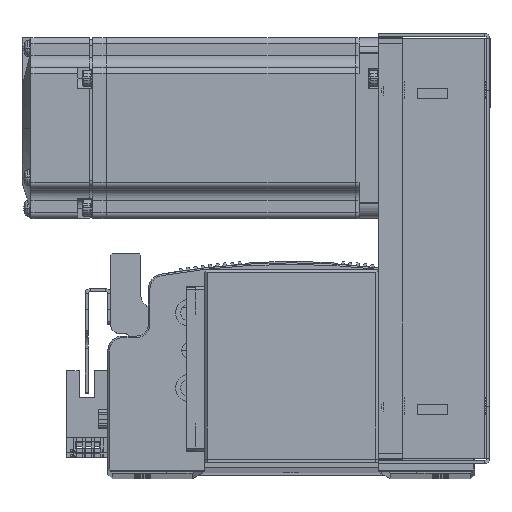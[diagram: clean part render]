
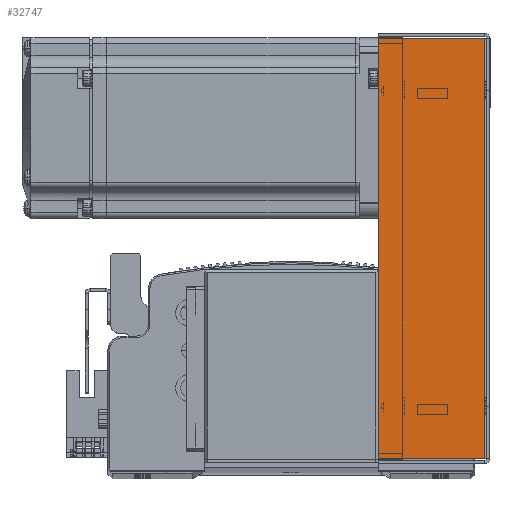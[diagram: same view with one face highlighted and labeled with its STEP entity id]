
A CAD part, top view. The second image highlights one B-rep face of the part: STEP entity #32747.
In plain terms, the highlighted planar face has unit normal (0, 0, 1) as drawn and (0, 0, -1) by its records, which use the part's own axes.
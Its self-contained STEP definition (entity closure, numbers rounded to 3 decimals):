
#4434 = CARTESIAN_POINT ( 'NONE',  ( 69.793, 0.737, -33.5 ) ) ;
#4494 = CARTESIAN_POINT ( 'NONE',  ( 69.793, 36., -33.5 ) ) ;
#4526 = CARTESIAN_POINT ( 'NONE',  ( -69.793, 36., -33.5 ) ) ;
#4596 = CARTESIAN_POINT ( 'NONE',  ( -69.793, 0.737, -33.5 ) ) ;
#16523 = EDGE_CURVE ( 'NONE', #92952, #92973, #42536, .T. ) ;
#16536 = EDGE_CURVE ( 'NONE', #93062, #93008, #42509, .T. ) ;
#16575 = EDGE_CURVE ( 'NONE', #93062, #92952, #42652, .T. ) ;
#16613 = EDGE_CURVE ( 'NONE', #93008, #92973, #42592, .T. ) ;
#22635 = AXIS2_PLACEMENT_3D ( 'NONE', #57750, #57680, #57742 ) ;
#32747 = ADVANCED_FACE ( 'NONE', ( #36765 ), #57678, .F. ) ;
#36765 = FACE_OUTER_BOUND ( 'NONE', #87062, .T. ) ;
#42509 = LINE ( 'NONE', #80627, #42547 ) ;
#42536 = LINE ( 'NONE', #80693, #42545 ) ;
#42545 = VECTOR ( 'NONE', #80612, 1000. ) ;
#42547 = VECTOR ( 'NONE', #80703, 1000. ) ;
#42592 = LINE ( 'NONE', #76479, #42619 ) ;
#42619 = VECTOR ( 'NONE', #76476, 1000. ) ;
#42620 = VECTOR ( 'NONE', #80733, 1000. ) ;
#42652 = LINE ( 'NONE', #80784, #42620 ) ;
#57678 = PLANE ( 'NONE',  #22635 ) ;
#57680 = DIRECTION ( 'NONE',  ( 0., 0., 1. ) ) ;
#57742 = DIRECTION ( 'NONE',  ( 0., -1., 0. ) ) ;
#57750 = CARTESIAN_POINT ( 'NONE',  ( 0., 0., -33.5 ) ) ;
#60453 = ORIENTED_EDGE ( 'NONE', *, *, #16523, .F. ) ;
#60504 = ORIENTED_EDGE ( 'NONE', *, *, #16613, .T. ) ;
#60634 = ORIENTED_EDGE ( 'NONE', *, *, #16575, .F. ) ;
#60659 = ORIENTED_EDGE ( 'NONE', *, *, #16536, .T. ) ;
#76476 = DIRECTION ( 'NONE',  ( 1., 0., 0. ) ) ;
#76479 = CARTESIAN_POINT ( 'NONE',  ( 0., 36., -33.5 ) ) ;
#80612 = DIRECTION ( 'NONE',  ( 0., 1., 0. ) ) ;
#80627 = CARTESIAN_POINT ( 'NONE',  ( -69.793, 0., -33.5 ) ) ;
#80693 = CARTESIAN_POINT ( 'NONE',  ( 69.793, 0., -33.5 ) ) ;
#80703 = DIRECTION ( 'NONE',  ( 0., 1., 0. ) ) ;
#80733 = DIRECTION ( 'NONE',  ( 1., 0., 0. ) ) ;
#80784 = CARTESIAN_POINT ( 'NONE',  ( 71.5, 0.737, -33.5 ) ) ;
#87062 = EDGE_LOOP ( 'NONE', ( #60634, #60659, #60504, #60453 ) ) ;
#92952 = VERTEX_POINT ( 'NONE', #4434 ) ;
#92973 = VERTEX_POINT ( 'NONE', #4494 ) ;
#93008 = VERTEX_POINT ( 'NONE', #4526 ) ;
#93062 = VERTEX_POINT ( 'NONE', #4596 ) ;
